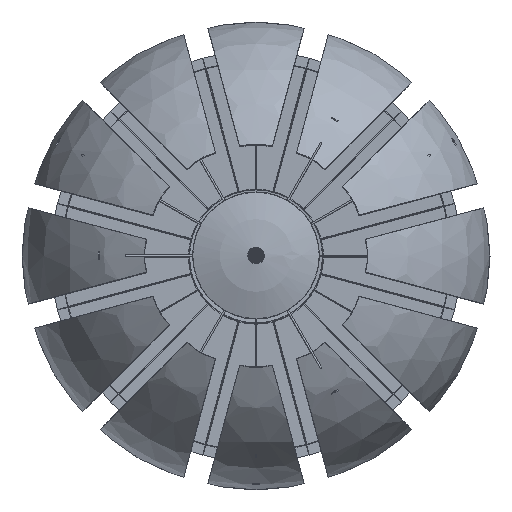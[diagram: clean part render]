
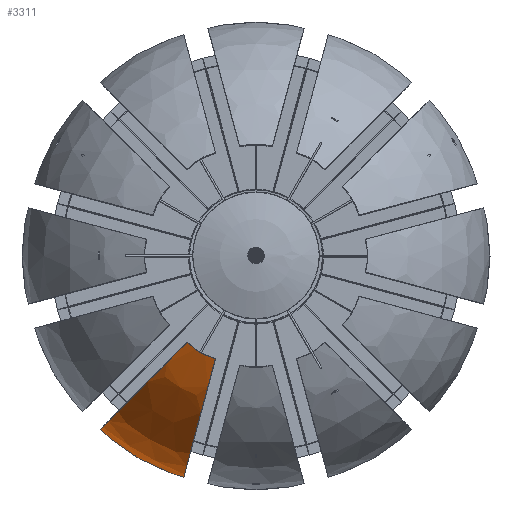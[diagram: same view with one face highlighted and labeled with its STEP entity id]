
A CAD part, top view. The second image highlights one B-rep face of the part: STEP entity #3311.
In plain terms, the highlighted spherical face has radius 1000 mm.
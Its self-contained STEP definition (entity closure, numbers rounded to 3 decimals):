
#3311 = ADVANCED_FACE('',(#3312),#3327,.T.);
#3312 = FACE_BOUND('',#3313,.F.);
#3313 = EDGE_LOOP('',(#3314,#3350,#3379,#3408));
#3314 = ORIENTED_EDGE('',*,*,#3315,.T.);
#3315 = EDGE_CURVE('',#3316,#3318,#3320,.T.);
#3316 = VERTEX_POINT('',#3317);
#3317 = CARTESIAN_POINT('',(-371.845,-467.011,
    1939.693));
#3318 = VERTEX_POINT('',#3319);
#3319 = CARTESIAN_POINT('',(-218.521,-555.533,
    1939.693));
#3320 = SURFACE_CURVE('',#3321,(#3326,#3338),.PCURVE_S1.);
#3321 = CIRCLE('',#3322,342.02);
#3322 = AXIS2_PLACEMENT_3D('',#3323,#3324,#3325);
#3323 = CARTESIAN_POINT('',(-130.,-225.167,1939.693));
#3324 = DIRECTION('',(0.,0.,1.));
#3325 = DIRECTION('',(-0.707,-0.707,0.));
#3326 = PCURVE('',#3327,#3332);
#3327 = SPHERICAL_SURFACE('',#3328,1000.);
#3328 = AXIS2_PLACEMENT_3D('',#3329,#3330,#3331);
#3329 = CARTESIAN_POINT('',(-130.,-225.167,1000.));
#3330 = DIRECTION('',(0.,0.,-1.));
#3331 = DIRECTION('',(-0.707,-0.707,0.));
#3332 = DEFINITIONAL_REPRESENTATION('',(#3333),#3337);
#3333 = LINE('',#3334,#3335);
#3334 = CARTESIAN_POINT('',(-0.,-1.222));
#3335 = VECTOR('',#3336,1.);
#3336 = DIRECTION('',(-1.,0.));
#3337 = ( GEOMETRIC_REPRESENTATION_CONTEXT(2) 
PARAMETRIC_REPRESENTATION_CONTEXT() REPRESENTATION_CONTEXT('2D SPACE',''
  ) );
#3338 = PCURVE('',#3339,#3344);
#3339 = CONICAL_SURFACE('',#3340,340.31,0.349);
#3340 = AXIS2_PLACEMENT_3D('',#3341,#3342,#3343);
#3341 = CARTESIAN_POINT('',(-130.,-225.167,1934.994));
#3342 = DIRECTION('',(0.,0.,1.));
#3343 = DIRECTION('',(-0.707,-0.707,0.));
#3344 = DEFINITIONAL_REPRESENTATION('',(#3345),#3349);
#3345 = LINE('',#3346,#3347);
#3346 = CARTESIAN_POINT('',(0.,4.698));
#3347 = VECTOR('',#3348,1.);
#3348 = DIRECTION('',(1.,0.));
#3349 = ( GEOMETRIC_REPRESENTATION_CONTEXT(2) 
PARAMETRIC_REPRESENTATION_CONTEXT() REPRESENTATION_CONTEXT('2D SPACE',''
  ) );
#3350 = ORIENTED_EDGE('',*,*,#3351,.T.);
#3351 = EDGE_CURVE('',#3318,#3352,#3354,.T.);
#3352 = VERTEX_POINT('',#3353);
#3353 = CARTESIAN_POINT('',(-218.521,-555.533,
    60.307));
#3354 = SURFACE_CURVE('',#3355,(#3360,#3367),.PCURVE_S1.);
#3355 = CIRCLE('',#3356,1000.);
#3356 = AXIS2_PLACEMENT_3D('',#3357,#3358,#3359);
#3357 = CARTESIAN_POINT('',(-130.,-225.167,1000.));
#3358 = DIRECTION('',(0.966,-0.259,0.)
  );
#3359 = DIRECTION('',(-0.089,-0.33,0.94
    ));
#3360 = PCURVE('',#3327,#3361);
#3361 = DEFINITIONAL_REPRESENTATION('',(#3362),#3366);
#3362 = LINE('',#3363,#3364);
#3363 = CARTESIAN_POINT('',(-0.524,-1.222));
#3364 = VECTOR('',#3365,1.);
#3365 = DIRECTION('',(-0.,1.));
#3366 = ( GEOMETRIC_REPRESENTATION_CONTEXT(2) 
PARAMETRIC_REPRESENTATION_CONTEXT() REPRESENTATION_CONTEXT('2D SPACE',''
  ) );
#3367 = PCURVE('',#3368,#3373);
#3368 = PLANE('',#3369);
#3369 = AXIS2_PLACEMENT_3D('',#3370,#3371,#3372);
#3370 = CARTESIAN_POINT('',(-317.264,-924.046,1000.));
#3371 = DIRECTION('',(0.966,-0.259,0.));
#3372 = DIRECTION('',(0.,0.,1.));
#3373 = DEFINITIONAL_REPRESENTATION('',(#3374),#3378);
#3374 = CIRCLE('',#3375,1000.);
#3375 = AXIS2_PLACEMENT_2D('',#3376,#3377);
#3376 = CARTESIAN_POINT('',(0.,-723.533));
#3377 = DIRECTION('',(0.94,0.342));
#3378 = ( GEOMETRIC_REPRESENTATION_CONTEXT(2) 
PARAMETRIC_REPRESENTATION_CONTEXT() REPRESENTATION_CONTEXT('2D SPACE',''
  ) );
#3379 = ORIENTED_EDGE('',*,*,#3380,.F.);
#3380 = EDGE_CURVE('',#3381,#3352,#3383,.T.);
#3381 = VERTEX_POINT('',#3382);
#3382 = CARTESIAN_POINT('',(-371.845,-467.011,
    60.307));
#3383 = SURFACE_CURVE('',#3384,(#3389,#3396),.PCURVE_S1.);
#3384 = CIRCLE('',#3385,342.02);
#3385 = AXIS2_PLACEMENT_3D('',#3386,#3387,#3388);
#3386 = CARTESIAN_POINT('',(-130.,-225.167,60.307));
#3387 = DIRECTION('',(0.,0.,1.));
#3388 = DIRECTION('',(-0.707,-0.707,0.));
#3389 = PCURVE('',#3327,#3390);
#3390 = DEFINITIONAL_REPRESENTATION('',(#3391),#3395);
#3391 = LINE('',#3392,#3393);
#3392 = CARTESIAN_POINT('',(-0.,1.222));
#3393 = VECTOR('',#3394,1.);
#3394 = DIRECTION('',(-1.,0.));
#3395 = ( GEOMETRIC_REPRESENTATION_CONTEXT(2) 
PARAMETRIC_REPRESENTATION_CONTEXT() REPRESENTATION_CONTEXT('2D SPACE',''
  ) );
#3396 = PCURVE('',#3397,#3402);
#3397 = CONICAL_SURFACE('',#3398,342.02,0.349);
#3398 = AXIS2_PLACEMENT_3D('',#3399,#3400,#3401);
#3399 = CARTESIAN_POINT('',(-130.,-225.167,60.307));
#3400 = DIRECTION('',(-0.,-0.,-1.));
#3401 = DIRECTION('',(-0.707,-0.707,0.));
#3402 = DEFINITIONAL_REPRESENTATION('',(#3403),#3407);
#3403 = LINE('',#3404,#3405);
#3404 = CARTESIAN_POINT('',(-0.,-0.));
#3405 = VECTOR('',#3406,1.);
#3406 = DIRECTION('',(-1.,-0.));
#3407 = ( GEOMETRIC_REPRESENTATION_CONTEXT(2) 
PARAMETRIC_REPRESENTATION_CONTEXT() REPRESENTATION_CONTEXT('2D SPACE',''
  ) );
#3408 = ORIENTED_EDGE('',*,*,#3409,.F.);
#3409 = EDGE_CURVE('',#3316,#3381,#3410,.T.);
#3410 = SURFACE_CURVE('',#3411,(#3416,#3423),.PCURVE_S1.);
#3411 = CIRCLE('',#3412,1000.);
#3412 = AXIS2_PLACEMENT_3D('',#3413,#3414,#3415);
#3413 = CARTESIAN_POINT('',(-130.,-225.167,1000.));
#3414 = DIRECTION('',(0.707,-0.707,0.)
  );
#3415 = DIRECTION('',(-0.242,-0.242,0.94));
#3416 = PCURVE('',#3327,#3417);
#3417 = DEFINITIONAL_REPRESENTATION('',(#3418),#3422);
#3418 = LINE('',#3419,#3420);
#3419 = CARTESIAN_POINT('',(-0.,-1.222));
#3420 = VECTOR('',#3421,1.);
#3421 = DIRECTION('',(-0.,1.));
#3422 = ( GEOMETRIC_REPRESENTATION_CONTEXT(2) 
PARAMETRIC_REPRESENTATION_CONTEXT() REPRESENTATION_CONTEXT('2D SPACE',''
  ) );
#3423 = PCURVE('',#3424,#3429);
#3424 = PLANE('',#3425);
#3425 = AXIS2_PLACEMENT_3D('',#3426,#3427,#3428);
#3426 = CARTESIAN_POINT('',(-641.615,-736.782,1000.));
#3427 = DIRECTION('',(0.707,-0.707,0.));
#3428 = DIRECTION('',(0.,0.,1.));
#3429 = DEFINITIONAL_REPRESENTATION('',(#3430),#3434);
#3430 = CIRCLE('',#3431,1000.);
#3431 = AXIS2_PLACEMENT_2D('',#3432,#3433);
#3432 = CARTESIAN_POINT('',(0.,-723.533));
#3433 = DIRECTION('',(0.94,0.342));
#3434 = ( GEOMETRIC_REPRESENTATION_CONTEXT(2) 
PARAMETRIC_REPRESENTATION_CONTEXT() REPRESENTATION_CONTEXT('2D SPACE',''
  ) );
